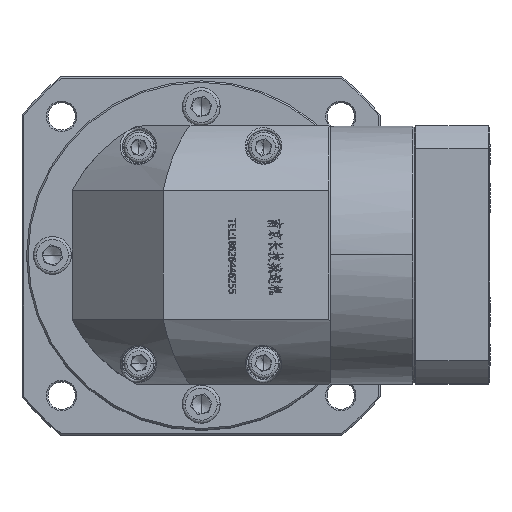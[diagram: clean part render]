
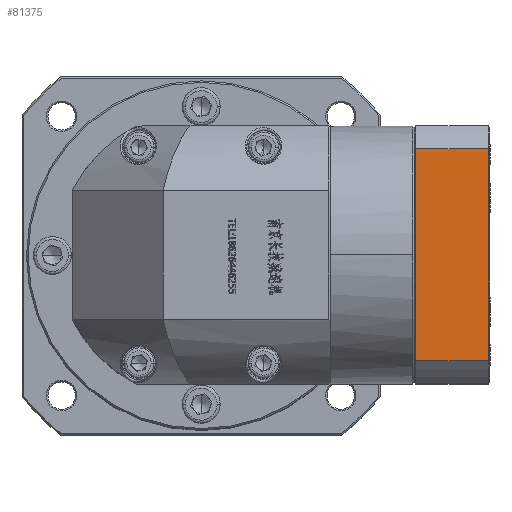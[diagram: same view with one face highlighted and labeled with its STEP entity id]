
A CAD part, top view. The second image highlights one B-rep face of the part: STEP entity #81375.
In plain terms, the highlighted planar face has unit normal (0, 0, 1).
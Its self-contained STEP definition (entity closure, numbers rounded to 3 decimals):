
#4562 = DIRECTION ( 'NONE',  ( 0., 0., -1. ) ) ;
#7542 = DIRECTION ( 'NONE',  ( -1., 0., 0. ) ) ;
#10241 = CARTESIAN_POINT ( 'NONE',  ( 71.492, -142.296, 58.058 ) ) ;
#10863 = VECTOR ( 'NONE', #7542, 1000. ) ;
#18422 = CARTESIAN_POINT ( 'NONE',  ( 71.992, -72.475, 58.058 ) ) ;
#19562 = DIRECTION ( 'NONE',  ( 1., 0., 0. ) ) ;
#23612 = LINE ( 'NONE', #118084, #10863 ) ;
#24754 = CARTESIAN_POINT ( 'NONE',  ( 71.492, -142.296, 58.058 ) ) ;
#25595 = FACE_OUTER_BOUND ( 'NONE', #120772, .T. ) ;
#43639 = CARTESIAN_POINT ( 'NONE',  ( 47.492, -142.296, 58.058 ) ) ;
#49688 = LINE ( 'NONE', #18422, #79664 ) ;
#50726 = ORIENTED_EDGE ( 'NONE', *, *, #56042, .F. ) ;
#52609 = DIRECTION ( 'NONE',  ( 0., -1., 0. ) ) ;
#56042 = EDGE_CURVE ( 'NONE', #94956, #136447, #23612, .T. ) ;
#64476 = ORIENTED_EDGE ( 'NONE', *, *, #90963, .F. ) ;
#67012 = VERTEX_POINT ( 'NONE', #76816 ) ;
#70093 = ORIENTED_EDGE ( 'NONE', *, *, #172389, .T. ) ;
#76816 = CARTESIAN_POINT ( 'NONE',  ( 71.492, -72.475, 58.058 ) ) ;
#79664 = VECTOR ( 'NONE', #19562, 1000. ) ;
#81375 = ADVANCED_FACE ( 'NONE', ( #25595 ), #96690, .F. ) ;
#84227 = CARTESIAN_POINT ( 'NONE',  ( 71.992, -142.296, 58.058 ) ) ;
#86714 = VECTOR ( 'NONE', #90811, 1000. ) ;
#87092 = EDGE_CURVE ( 'NONE', #112394, #67012, #49688, .T. ) ;
#90811 = DIRECTION ( 'NONE',  ( 0., -1., 0. ) ) ;
#90963 = EDGE_CURVE ( 'NONE', #67012, #94956, #175038, .T. ) ;
#94956 = VERTEX_POINT ( 'NONE', #10241 ) ;
#95246 = LINE ( 'NONE', #119413, #86714 ) ;
#96548 = VECTOR ( 'NONE', #52609, 1000. ) ;
#96690 = PLANE ( 'NONE',  #161582 ) ;
#98994 = DIRECTION ( 'NONE',  ( -1., 0., 0. ) ) ;
#111589 = CARTESIAN_POINT ( 'NONE',  ( 47.492, -72.475, 58.058 ) ) ;
#112394 = VERTEX_POINT ( 'NONE', #111589 ) ;
#118084 = CARTESIAN_POINT ( 'NONE',  ( 71.992, -142.296, 58.058 ) ) ;
#119413 = CARTESIAN_POINT ( 'NONE',  ( 47.492, -142.296, 58.058 ) ) ;
#120772 = EDGE_LOOP ( 'NONE', ( #64476, #159160, #70093, #50726 ) ) ;
#136447 = VERTEX_POINT ( 'NONE', #43639 ) ;
#159160 = ORIENTED_EDGE ( 'NONE', *, *, #87092, .F. ) ;
#161582 = AXIS2_PLACEMENT_3D ( 'NONE', #84227, #4562, #98994 ) ;
#172389 = EDGE_CURVE ( 'NONE', #112394, #136447, #95246, .T. ) ;
#175038 = LINE ( 'NONE', #24754, #96548 ) ;
